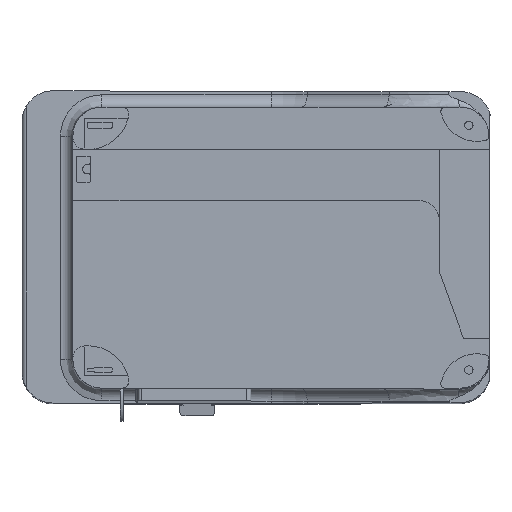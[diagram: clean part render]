
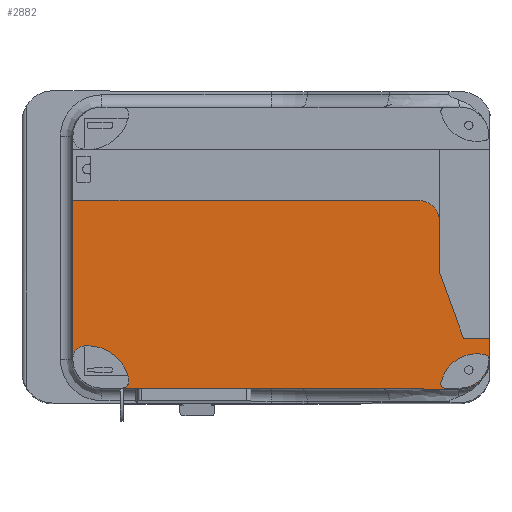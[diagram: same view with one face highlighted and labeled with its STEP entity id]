
A CAD part, front view. The second image highlights one B-rep face of the part: STEP entity #2882.
In plain terms, the highlighted planar face has unit normal (0, -1, 0).
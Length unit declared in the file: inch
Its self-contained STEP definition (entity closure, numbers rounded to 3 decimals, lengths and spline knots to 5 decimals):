
#93=CARTESIAN_POINT('',(-16.33858,-5.3937,-4.44882));
#94=DIRECTION('',(0.,-1.,0.));
#95=DIRECTION('',(-0.739,0.,0.674));
#96=AXIS2_PLACEMENT_3D('',#93,#94,#95);
#98=DIRECTION('',(0.,0.,1.));
#99=VECTOR('',#98,6.34593);
#100=CARTESIAN_POINT('',(-16.83428,-5.3937,
-4.44882));
#101=LINE('',#100,#99);
#102=CARTESIAN_POINT('',(-2.92366,-5.3937,1.05272));
#103=DIRECTION('',(0.,1.,0.));
#104=DIRECTION('',(-0.003,0.,1.));
#105=AXIS2_PLACEMENT_3D('',#102,#103,#104);
#107=DIRECTION('',(0.343,0.,-0.939));
#108=VECTOR('',#107,2.79909);
#109=CARTESIAN_POINT('',(-2.08158,-5.3937,
-1.00921));
#110=LINE('',#109,#108);
#111=DIRECTION('',(1.,0.,0.));
#112=VECTOR('',#111,1.06362);
#113=CARTESIAN_POINT('',(-1.12268,-5.3937,
-3.63893));
#114=LINE('',#113,#112);
#115=CARTESIAN_POINT('',(-0.05905,-5.3937,
-3.63893));
#116=CARTESIAN_POINT('',(-0.05782,-5.3937,
-3.92275));
#117=CARTESIAN_POINT('',(-0.05757,-5.3937,
-4.20512));
#118=CARTESIAN_POINT('',(-0.05634,-5.3937,
-4.48895));
#120=CARTESIAN_POINT('',(-1.25984,-5.3937,
-4.48862));
#121=DIRECTION('',(0.,1.,0.));
#122=DIRECTION('',(1.,0.,-0.001));
#123=AXIS2_PLACEMENT_3D('',#120,#121,#122);
#125=DIRECTION('',(-1.,0.,0.003));
#126=VECTOR('',#125,13.62303);
#127=CARTESIAN_POINT('',(-1.25988,-5.3937,
-5.69247));
#128=LINE('',#127,#126);
#129=CARTESIAN_POINT('',(-14.88285,-5.3937,
-5.65385));
#130=CARTESIAN_POINT('',(-14.84928,-5.3937,
-5.65389));
#131=CARTESIAN_POINT('',(-14.78912,-5.3937,
-5.64307));
#132=CARTESIAN_POINT('',(-14.70335,-5.3937,
-5.60032));
#133=CARTESIAN_POINT('',(-14.63648,-5.3937,
-5.53339));
#134=CARTESIAN_POINT('',(-14.5931,-5.3937,
-5.4483));
#135=CARTESIAN_POINT('',(-14.58305,-5.3937,
-5.38685));
#136=CARTESIAN_POINT('',(-14.58305,-5.3937,
-5.35433));
#138=CARTESIAN_POINT('',(-14.88189,-5.3937,
-5.35433));
#139=DIRECTION('',(0.,-1.,0.));
#140=DIRECTION('',(1.,0.,0.));
#141=AXIS2_PLACEMENT_3D('',#138,#139,#140);
#143=DIRECTION('',(-0.234,0.,0.972));
#144=VECTOR('',#143,0.14086);
#145=CARTESIAN_POINT('',(-14.58888,-5.3937,
-5.29559));
#146=LINE('',#145,#144);
#147=CARTESIAN_POINT('',(-16.23296,-5.3937,
-5.62519));
#148=DIRECTION('',(0.,-1.,0.));
#149=DIRECTION('',(0.961,0.,0.278));
#150=AXIS2_PLACEMENT_3D('',#147,#148,#149);
#152=DIRECTION('',(-0.997,0.,-0.08));
#153=VECTOR('',#152,0.2144);
#154=CARTESIAN_POINT('',(-16.23296,-5.3937,
-3.94783));
#155=LINE('',#154,#153);
#156=CARTESIAN_POINT('',(-16.33846,-5.3937,
-4.44898));
#157=DIRECTION('',(0.,-1.,0.));
#158=DIRECTION('',(-0.218,0.,0.976));
#159=AXIS2_PLACEMENT_3D('',#156,#157,#158);
#161=CARTESIAN_POINT('',(-0.58137,-5.3937,
-5.7509));
#162=DIRECTION('',(0.,-1.,0.));
#163=DIRECTION('',(0.235,0.,0.972));
#164=AXIS2_PLACEMENT_3D('',#161,#162,#163);
#166=CARTESIAN_POINT('',(-1.85039,-5.3937,
-5.47244));
#167=DIRECTION('',(0.,-1.,0.));
#168=DIRECTION('',(-0.977,0.,0.214));
#169=AXIS2_PLACEMENT_3D('',#166,#167,#168);
#171=CARTESIAN_POINT('',(-1.85039,-5.3937,
-5.47244));
#172=DIRECTION('',(0.,-1.,0.));
#173=DIRECTION('',(-1.,0.,0.));
#174=AXIS2_PLACEMENT_3D('',#171,#172,#173);
#176=CARTESIAN_POINT('',(-1.25984,-5.3937,
-4.48819));
#177=DIRECTION('',(0.,-1.,0.));
#178=DIRECTION('',(0.,0.,-1.));
#179=AXIS2_PLACEMENT_3D('',#176,#177,#178);
#181=CARTESIAN_POINT('',(-0.27559,-5.3937,
-4.48819));
#182=DIRECTION('',(0.,-1.,0.));
#183=DIRECTION('',(1.,0.,0.));
#184=AXIS2_PLACEMENT_3D('',#181,#182,#183);
#821=DIRECTION('',(0.,0.,1.));
#822=VECTOR('',#821,2.06223);
#823=CARTESIAN_POINT('',(-2.08158,-5.3937,
-1.00921));
#824=LINE('',#823,#822);
#872=DIRECTION('',(-1.,0.,0.));
#873=VECTOR('',#872,13.90977);
#874=CARTESIAN_POINT('',(-2.92451,-5.3937,1.89528));
#875=LINE('',#874,#873);
#1953=DIRECTION('',(-1.,0.,0.));
#1954=VECTOR('',#1953,0.59054);
#1955=CARTESIAN_POINT('',(-1.25984,-5.3937,
-5.65317));
#1956=LINE('',#1955,#1954);
#2249=CARTESIAN_POINT('',(-1.25988,-5.3937,
-5.69247));
#2250=CARTESIAN_POINT('',(-14.88285,-5.3937,
-5.65385));
#2251=VERTEX_POINT('',#2249);
#2252=VERTEX_POINT('',#2250);
#2305=CARTESIAN_POINT('',(-16.70492,-5.3937,
-4.11489));
#2306=CARTESIAN_POINT('',(-16.83428,-5.3937,
-4.44882));
#2307=VERTEX_POINT('',#2305);
#2308=VERTEX_POINT('',#2306);
#2309=CARTESIAN_POINT('',(-16.83428,-5.3937,
1.89711));
#2310=VERTEX_POINT('',#2309);
#2311=CARTESIAN_POINT('',(-2.92451,-5.3937,
1.89528));
#2312=VERTEX_POINT('',#2311);
#2313=CARTESIAN_POINT('',(-2.08136,-5.3937,
1.05379));
#2314=VERTEX_POINT('',#2313);
#2315=CARTESIAN_POINT('',(-2.08158,-5.3937,
-1.00921));
#2316=VERTEX_POINT('',#2315);
#2317=CARTESIAN_POINT('',(-1.12268,-5.3937,
-3.63893));
#2318=VERTEX_POINT('',#2317);
#2319=CARTESIAN_POINT('',(-0.05905,-5.3937,
-3.63893));
#2320=VERTEX_POINT('',#2319);
#2321=VERTEX_POINT('',#118);
#2322=VERTEX_POINT('',#136);
#2323=CARTESIAN_POINT('',(-14.58888,-5.3937,
-5.29559));
#2324=VERTEX_POINT('',#2323);
#2325=CARTESIAN_POINT('',(-14.62179,-5.3937,
-5.15863));
#2326=VERTEX_POINT('',#2325);
#2327=CARTESIAN_POINT('',(-16.23296,-5.3937,
-3.94783));
#2328=VERTEX_POINT('',#2327);
#2329=CARTESIAN_POINT('',(-16.44667,-5.3937,
-3.96504));
#2330=VERTEX_POINT('',#2329);
#2331=CARTESIAN_POINT('',(-0.23305,-5.3937,
-4.31253));
#2332=CARTESIAN_POINT('',(-2.02693,-5.3937,
-5.4337));
#2333=VERTEX_POINT('',#2331);
#2334=VERTEX_POINT('',#2332);
#2335=CARTESIAN_POINT('',(-2.03113,-5.3937,
-5.47244));
#2336=VERTEX_POINT('',#2335);
#2337=CARTESIAN_POINT('',(-1.85038,-5.3937,
-5.65317));
#2338=VERTEX_POINT('',#2337);
#2339=CARTESIAN_POINT('',(-1.25984,-5.3937,
-5.65317));
#2340=VERTEX_POINT('',#2339);
#2341=CARTESIAN_POINT('',(-0.09486,-5.3937,
-4.48819));
#2342=VERTEX_POINT('',#2341);
#2830=CARTESIAN_POINT('',(0.,-5.3937,0.));
#2831=DIRECTION('',(0.,-1.,0.));
#2832=DIRECTION('',(1.,0.,0.));
#2833=AXIS2_PLACEMENT_3D('',#2830,#2831,#2832);
#2834=PLANE('',#2833);
#2836=ORIENTED_EDGE('',*,*,#2835,.T.);
#2838=ORIENTED_EDGE('',*,*,#2837,.T.);
#2840=ORIENTED_EDGE('',*,*,#2839,.F.);
#2842=ORIENTED_EDGE('',*,*,#2841,.T.);
#2844=ORIENTED_EDGE('',*,*,#2843,.F.);
#2846=ORIENTED_EDGE('',*,*,#2845,.T.);
#2848=ORIENTED_EDGE('',*,*,#2847,.T.);
#2850=ORIENTED_EDGE('',*,*,#2849,.T.);
#2852=ORIENTED_EDGE('',*,*,#2851,.T.);
#2853=ORIENTED_EDGE('',*,*,#2796,.T.);
#2855=ORIENTED_EDGE('',*,*,#2854,.T.);
#2857=ORIENTED_EDGE('',*,*,#2856,.T.);
#2859=ORIENTED_EDGE('',*,*,#2858,.T.);
#2861=ORIENTED_EDGE('',*,*,#2860,.T.);
#2863=ORIENTED_EDGE('',*,*,#2862,.T.);
#2865=ORIENTED_EDGE('',*,*,#2864,.T.);
#2866=EDGE_LOOP('',(#2836,#2838,#2840,#2842,#2844,#2846,#2848,#2850,#2852,#2853,
#2855,#2857,#2859,#2861,#2863,#2865));
#2867=FACE_OUTER_BOUND('',#2866,.F.);
#2869=ORIENTED_EDGE('',*,*,#2868,.T.);
#2871=ORIENTED_EDGE('',*,*,#2870,.T.);
#2873=ORIENTED_EDGE('',*,*,#2872,.T.);
#2875=ORIENTED_EDGE('',*,*,#2874,.F.);
#2877=ORIENTED_EDGE('',*,*,#2876,.T.);
#2879=ORIENTED_EDGE('',*,*,#2878,.T.);
#2880=EDGE_LOOP('',(#2869,#2871,#2873,#2875,#2877,#2879));
#2881=FACE_BOUND('',#2880,.F.);
#2882=ADVANCED_FACE('',(#2867,#2881),#2834,.T.);
#97=CIRCLE('',#96,0.49569);
#106=CIRCLE('',#105,0.84231);
#119=B_SPLINE_CURVE_WITH_KNOTS('',3,(#115,#116,#117,#118),.UNSPECIFIED.,.F.,.F.,
(4,4),(0.,1.),.UNSPECIFIED.);
#124=CIRCLE('',#123,1.20385);
#137=B_SPLINE_CURVE_WITH_KNOTS('',3,(#129,#130,#131,#132,#133,#134,#135,#136),
.UNSPECIFIED.,.F.,.F.,(4,1,1,1,1,4),(0.,0.2,0.4,0.6,0.8,1.),
.UNSPECIFIED.);
#142=CIRCLE('',#141,0.29884);
#151=CIRCLE('',#150,1.67736);
#160=CIRCLE('',#159,0.49589);
#165=CIRCLE('',#164,1.47994);
#170=CIRCLE('',#169,0.18073);
#175=CIRCLE('',#174,0.18073);
#180=CIRCLE('',#179,1.16498);
#185=CIRCLE('',#184,0.18073);
#2796=EDGE_CURVE('',#2251,#2252,#128,.T.);
#2835=EDGE_CURVE('',#2307,#2308,#97,.T.);
#2837=EDGE_CURVE('',#2308,#2310,#101,.T.);
#2839=EDGE_CURVE('',#2312,#2310,#875,.T.);
#2841=EDGE_CURVE('',#2312,#2314,#106,.T.);
#2843=EDGE_CURVE('',#2316,#2314,#824,.T.);
#2845=EDGE_CURVE('',#2316,#2318,#110,.T.);
#2847=EDGE_CURVE('',#2318,#2320,#114,.T.);
#2849=EDGE_CURVE('',#2320,#2321,#119,.T.);
#2851=EDGE_CURVE('',#2321,#2251,#124,.T.);
#2854=EDGE_CURVE('',#2252,#2322,#137,.T.);
#2856=EDGE_CURVE('',#2322,#2324,#142,.T.);
#2858=EDGE_CURVE('',#2324,#2326,#146,.T.);
#2860=EDGE_CURVE('',#2326,#2328,#151,.T.);
#2862=EDGE_CURVE('',#2328,#2330,#155,.T.);
#2864=EDGE_CURVE('',#2330,#2307,#160,.T.);
#2868=EDGE_CURVE('',#2333,#2334,#165,.T.);
#2870=EDGE_CURVE('',#2334,#2336,#170,.T.);
#2872=EDGE_CURVE('',#2336,#2338,#175,.T.);
#2874=EDGE_CURVE('',#2340,#2338,#1956,.T.);
#2876=EDGE_CURVE('',#2340,#2342,#180,.T.);
#2878=EDGE_CURVE('',#2342,#2333,#185,.T.);
